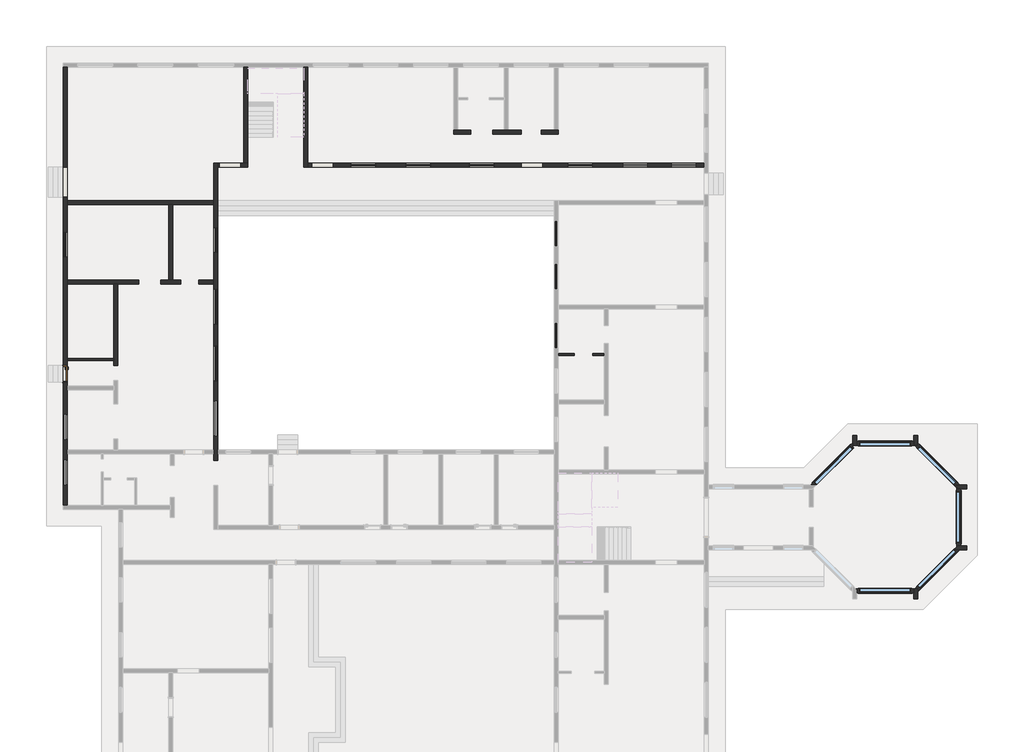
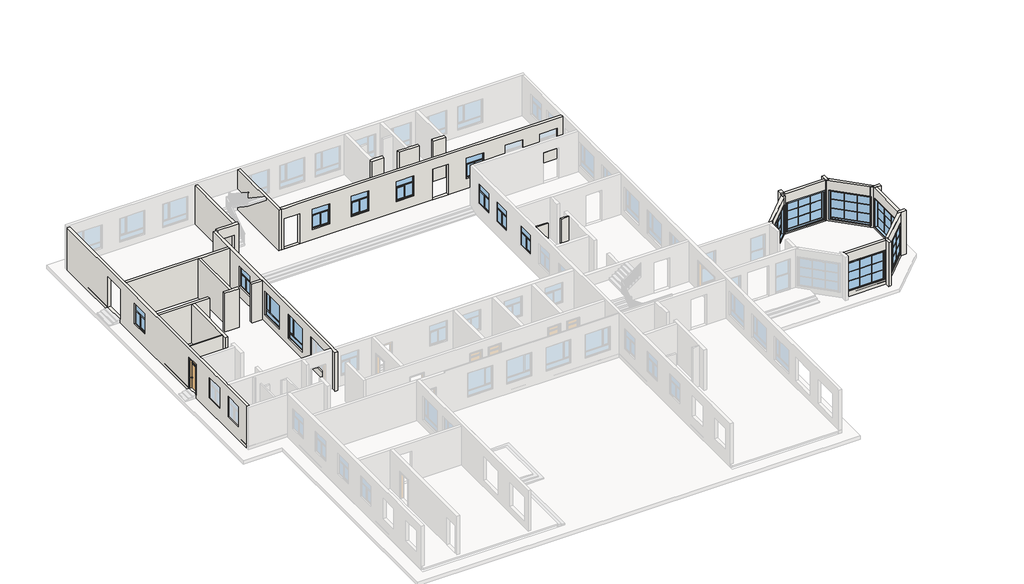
# One storey, part 3 of 5: 29 walls, 17 windows, 1 door.
"""IFC4 building model written with IfcOpenShell, lengths in millimetres."""

from ifc_helpers import new_model, si_unit, frame, origin, origin_with_axes, place, context, project, spatial, polyline, outline, extrude, faceted_brep, transform, mapped, element, save
from components import m1_645588ba, c1_07d47191, c2_05897f81, c3_245fb3e4, c3_0cb914d8

model = new_model("IFC4")

# Units and contexts
model_context = context("Model", 3, world=origin())
ifc_project = project(units=[si_unit("LENGTHUNIT", "METRE", prefix="MILLI")], contexts=[model_context])

# Site, building, storey
site = spatial("IfcSite", under=ifc_project)
building = spatial("IfcBuilding", under=site)
storey = spatial("IfcBuildingStorey", under=building, Name="一层", Elevation=0.0)

# Door
placement = place(None, origin())
m1_shape = m1_645588ba(model_context)
element("IfcDoor", 1, ObjectType="单嵌板木门 13 : M1", at=placement, inside=storey, context=model_context, shape_type="MappedRepresentation", body=[
    mapped(m1_shape, transform((-32270.2831392, 76.2161615, 0.0), x_axis=(0.0, -1.0, 0.0), y_axis=(1.0, 0.0, 0.0), z_axis=(0.0, 0.0, 1.0))),
])

# Walls
element("IfcWall", 2, ObjectType="墙", at=placement, inside=storey, context=model_context, shape_type="Brep", body=[
    faceted_brep([(-32150.2831392, -7793.7838385, -300.0), (-32150.2831392, -4733.7838385, -300.0), (-32150.2831392, -4493.7838385, -300.0), (-32150.2831392, -878.7838385, -300.0), (-32150.2831392, -638.7838385, -300.0), (-32150.2831392, 5456.2161615, -300.0), (-32150.2831392, 5696.2161615, -300.0), (-32150.2831392, 10226.2161615, -300.0), (-32150.2831392, 10466.2161615, -300.0), (-32150.2831392, 18456.2161615, -300.0), (-32150.2831392, 18456.2161615, 3450.0), (-32150.2831392, 10466.2161615, 3450.0), (-32150.2831392, 10226.2161615, 3450.0), (-32150.2831392, 5696.2161615, 3450.0), (-32150.2831392, 5456.2161615, 3450.0), (-32150.2831392, 1001.2161615, 3450.0), (-32150.2831392, 881.2161615, 3450.0), (-32150.2831392, -638.7838385, 3450.0), (-32150.2831392, -878.7838385, 3450.0), (-32150.2831392, -7793.7838385, 3450.0), (-32150.2831392, -6593.7838385, 900.0), (-32150.2831392, -6593.7838385, 2700.0), (-32150.2831392, -5093.7838385, 2700.0), (-32150.2831392, -5093.7838385, 900.0), (-32150.2831392, -3858.7838385, 900.0), (-32150.2831392, -3858.7838385, 2700.0), (-32150.2831392, -2358.7838385, 2700.0), (-32150.2831392, -2358.7838385, 900.0), (-32150.2831392, 7076.2161615, 900.0), (-32150.2831392, 7076.2161615, 2700.0), (-32150.2831392, 8576.2161615, 2700.0), (-32150.2831392, 8576.2161615, 900.0), (-32150.2831392, 10676.2161615, 0.0), (-32150.2831392, 10676.2161615, 2700.0), (-32150.2831392, 12476.2161615, 2700.0), (-32150.2831392, 12476.2161615, 0.0), (-32150.2831392, -423.7838385, 0.0), (-32150.2831392, -423.7838385, 2700.0), (-32150.2831392, 576.2161615, 2700.0), (-32150.2831392, 576.2161615, 0.0), (-32390.2831392, 18456.2161615, -300.0), (-32390.2831392, -7793.7838385, -300.0), (-32390.2831392, -7793.7838385, 3450.0), (-32390.2831392, 18456.2161615, 3450.0), (-32390.2831392, -6593.7838385, 2700.0), (-32390.2831392, -6593.7838385, 900.0), (-32390.2831392, -5093.7838385, 900.0), (-32390.2831392, -5093.7838385, 2700.0), (-32390.2831392, -3858.7838385, 2700.0), (-32390.2831392, -3858.7838385, 900.0), (-32390.2831392, -2358.7838385, 900.0), (-32390.2831392, -2358.7838385, 2700.0), (-32390.2831392, 7076.2161615, 2700.0), (-32390.2831392, 7076.2161615, 900.0), (-32390.2831392, 8576.2161615, 900.0), (-32390.2831392, 8576.2161615, 2700.0), (-32390.2831392, 10676.2161615, 2700.0), (-32390.2831392, 10676.2161615, 0.0), (-32390.2831392, 12476.2161615, 0.0), (-32390.2831392, 12476.2161615, 2700.0), (-32390.2831392, -423.7838385, 2700.0), (-32390.2831392, -423.7838385, 0.0), (-32390.2831392, 576.2161615, 0.0), (-32390.2831392, 576.2161615, 2700.0)], [[[0, 1, 2, 3, 4, 5, 6, 7, 8, 9, 10, 11, 12, 13, 14, 15, 16, 17, 18, 19], [20, 21, 22, 23], [24, 25, 26, 27], [28, 29, 30, 31], [32, 33, 34, 35], [36, 37, 38, 39]], [[40, 41, 42, 43], [44, 45, 46, 47], [48, 49, 50, 51], [52, 53, 54, 55], [56, 57, 58, 59], [60, 61, 62, 63]], [[9, 8, 7, 6, 5, 4, 3, 2, 1, 0, 41, 40]], [[41, 0, 19, 42]], [[21, 20, 45, 44]], [[22, 21, 44, 47]], [[23, 22, 47, 46]], [[20, 23, 46, 45]], [[25, 24, 49, 48]], [[26, 25, 48, 51]], [[27, 26, 51, 50]], [[24, 27, 50, 49]], [[29, 28, 53, 52]], [[30, 29, 52, 55]], [[31, 30, 55, 54]], [[28, 31, 54, 53]], [[33, 32, 57, 56]], [[34, 33, 56, 59]], [[35, 34, 59, 58]], [[32, 35, 58, 57]], [[37, 36, 61, 60]], [[38, 37, 60, 63]], [[39, 38, 63, 62]], [[36, 39, 62, 61]], [[9, 40, 43, 10]], [[19, 18, 17, 16, 15, 14, 13, 12, 11, 10, 43, 42]]]),
])
element("IfcWall", 3, ObjectType="墙", at=placement, inside=storey, context=model_context, shape_type="Brep", body=[
    faceted_brep([(12714.4224883, -6566.7838385, -300.0), (14887.7168608, -4393.4894659, -300.0), (14887.7168608, -4393.4894659, 200.0), (12714.4224883, -6566.7838385, 200.0), (12714.4224883, -6566.7838385, 2700.0), (14887.7168608, -4393.4894659, 2700.0), (14887.7168608, -4393.4894659, 3450.0), (12714.4224883, -6566.7838385, 3450.0), (14887.7168608, -4054.078211, -300.0), (12375.0112333, -6566.7838385, -300.0), (12375.0112333, -6566.7838385, 3450.0), (14887.7168608, -4054.078211, 3450.0), (14720.6925793, -4221.1024925, 200.0), (14720.6925793, -4221.1024925, 2700.0), (12542.8036933, -6398.9913785, 2700.0), (12542.8036933, -6398.9913785, 200.0), (14887.7168608, -4223.7838385, -300.0), (12710.5961532, -6566.7838385, 200.0), (12710.5961532, -6566.7838385, 2700.0), (14887.7168608, -4388.1267739, 2700.0), (14887.7168608, -4388.1267739, 200.0), (14887.7168608, -4223.7838385, 3450.0)], [[[0, 1, 2, 3]], [[4, 5, 6, 7]], [[8, 9, 10, 11], [12, 13, 14, 15]], [[1, 0, 9, 8, 16]], [[9, 0, 3, 17, 18, 4, 7, 10]], [[19, 13, 12, 20]], [[20, 12, 15, 17, 3, 2]], [[15, 14, 18, 17]], [[13, 19, 5, 4, 18, 14]], [[1, 16, 8, 11, 21, 6, 5, 19, 20, 2]], [[7, 6, 21, 11, 10]]]),
])
element("IfcWall", 4, ObjectType="墙", at=placement, inside=storey, context=model_context, shape_type="Brep", body=[
    faceted_brep([(15057.4224883, -4223.7838385, 3600.0), (15057.4224883, -4223.7838385, -300.0), (18541.7168608, -4223.7838385, -300.0), (18541.7168608, -4223.7838385, 3600.0), (18374.7168608, -4223.7838385, 2700.0), (18374.7168608, -4223.7838385, 200.0), (15294.7168608, -4223.7838385, 200.0), (15294.7168608, -4223.7838385, 2700.0), (15127.7168608, -3983.7838385, -300.0), (15127.7168608, -3983.7838385, 3600.0), (18541.7168608, -3983.7838385, 3600.0), (18541.7168608, -3983.7838385, -300.0), (18374.7168608, -3983.7838385, 2700.0), (15294.7168608, -3983.7838385, 2700.0), (15294.7168608, -3983.7838385, 200.0), (18374.7168608, -3983.7838385, 200.0), (15127.7168608, -4153.4894659, -300.0), (18541.7168608, -4153.4894659, 3600.0), (15127.7168608, -4153.4894659, 3600.0)], [[[0, 1, 2, 3], [4, 5, 6, 7]], [[8, 9, 10, 11], [12, 13, 14, 15]], [[2, 1, 16, 8, 11]], [[0, 3, 17, 10, 9, 18]], [[5, 4, 12, 15]], [[6, 5, 15, 14]], [[7, 6, 14, 13]], [[4, 7, 13, 12]], [[2, 11, 10, 17, 3]], [[0, 18, 16, 1]], [[16, 18, 9, 8]]]),
])
element("IfcWall", 5, ObjectType="墙", at=placement, inside=storey, context=model_context, shape_type="Brep", body=[
    faceted_brep([(18612.0112333, -4223.7838385, -300.0), (20955.0112333, -6566.7838385, -300.0), (20955.0112333, -6566.7838385, 200.0), (18779.0355148, -4390.8081199, 200.0), (18779.0355148, -4390.8081199, 2700.0), (20955.0112333, -6566.7838385, 2700.0), (20955.0112333, -6566.7838385, 3600.0), (18612.0112333, -4223.7838385, 3600.0), (21294.4224883, -6566.7838385, -300.0), (18781.7168608, -4054.078211, -300.0), (18781.7168608, -4054.078211, 3600.0), (21294.4224883, -6566.7838385, 3600.0), (18948.7411423, -4221.1024925, 2700.0), (18948.7411423, -4221.1024925, 200.0), (21126.6300284, -6398.9913785, 200.0), (21126.6300284, -6398.9913785, 2700.0), (18781.7168608, -4223.7838385, -300.0), (18781.7168608, -4223.7838385, 3600.0), (20958.8375684, -6566.7838385, 200.0), (20958.8375684, -6566.7838385, 2700.0)], [[[0, 1, 2, 3, 4, 5, 6, 7]], [[8, 9, 10, 11], [12, 13, 14, 15]], [[1, 0, 16, 9, 8]], [[7, 6, 11, 10, 17]], [[12, 4, 3, 13]], [[13, 3, 2, 18, 14]], [[14, 18, 19, 15]], [[4, 12, 15, 19, 5]], [[17, 10, 9, 16]], [[7, 17, 16, 0]], [[1, 8, 11, 6, 5, 19, 18, 2]]]),
])
element("IfcWall", 6, ObjectType="墙", at=placement, inside=storey, context=model_context, shape_type="Brep", body=[
    faceted_brep([(21195.0112333, -6806.7838385, -300.0), (21364.7168608, -6806.7838385, -300.0), (21724.7168608, -6806.7838385, -300.0), (21724.7168608, -6806.7838385, 3600.0), (21364.7168608, -6806.7838385, 3600.0), (21195.0112333, -6806.7838385, 3600.0), (21724.7168608, -6566.7838385, -300.0), (21294.4224883, -6566.7838385, -300.0), (20955.0112333, -6566.7838385, -300.0), (20955.0112333, -6566.7838385, 200.0), (20958.8375684, -6566.7838385, 200.0), (20958.8375684, -6566.7838385, 2700.0), (20955.0112333, -6566.7838385, 2700.0), (20955.0112333, -6566.7838385, 3600.0), (21294.4224883, -6566.7838385, 3600.0), (21724.7168608, -6566.7838385, 3600.0), (21124.7168608, -6736.4894659, -300.0), (21124.7168608, -6736.4894659, 3600.0), (20956.9244009, -6568.697006, 200.0), (20956.9244009, -6568.697006, 2700.0)], [[[0, 1, 2, 3, 4, 5]], [[6, 7, 8, 9, 10, 11, 12, 13, 14, 15]], [[2, 1, 0, 16, 8, 7, 6]], [[3, 2, 6, 15]], [[5, 4, 3, 15, 14, 13, 17]], [[18, 10, 9]], [[10, 18, 19, 11]], [[11, 19, 12]], [[8, 16, 0, 5, 17, 13, 12, 19, 18, 9]]]),
])
element("IfcWall", 7, ObjectType="墙", at=placement, inside=storey, context=model_context, shape_type="Brep", body=[
    faceted_brep([(15127.7168608, -4223.7838385, -300.0), (15127.7168608, -4153.4894659, -300.0), (15127.7168608, -3983.7838385, -300.0), (15127.7168608, -3623.7838385, -300.0), (15127.7168608, -3623.7838385, 3600.0), (15127.7168608, -3983.7838385, 3600.0), (15127.7168608, -3983.7838385, 3450.0), (15127.7168608, -4223.7838385, 3450.0), (14887.7168608, -3623.7838385, -300.0), (14887.7168608, -4054.078211, -300.0), (14887.7168608, -4223.7838385, -300.0), (14887.7168608, -4223.7838385, 3450.0), (14887.7168608, -4054.078211, 3450.0), (14887.7168608, -3983.7838385, 3450.0), (14887.7168608, -3983.7838385, 3600.0), (14887.7168608, -3623.7838385, 3600.0)], [[[0, 1, 2, 3, 4, 5, 6, 7]], [[8, 9, 10, 11, 12, 13, 14, 15]], [[3, 2, 1, 0, 10, 9, 8]], [[4, 3, 8, 15]], [[5, 4, 15, 14]], [[13, 12, 11, 7, 6]], [[0, 7, 11, 10]], [[6, 5, 14, 13]]]),
])
element("IfcWall", 8, ObjectType="墙", at=placement, inside=storey, context=model_context, shape_type="Brep", body=[
    faceted_brep([(18781.7168608, -4223.7838385, 3600.0), (18781.7168608, -4223.7838385, -300.0), (18781.7168608, -4054.078211, -300.0), (18781.7168608, -3623.7838385, -300.0), (18781.7168608, -3623.7838385, 3600.0), (18781.7168608, -4054.078211, 3600.0), (18541.7168608, -4223.7838385, -300.0), (18541.7168608, -4223.7838385, 3600.0), (18541.7168608, -3983.7838385, 3600.0), (18541.7168608, -3623.7838385, 3600.0), (18541.7168608, -3623.7838385, -300.0), (18541.7168608, -3983.7838385, -300.0), (18612.0112333, -4223.7838385, -300.0), (18612.0112333, -4223.7838385, 3600.0)], [[[0, 1, 2, 3, 4, 5]], [[6, 7, 8, 9, 10, 11]], [[3, 2, 1, 12, 6, 11, 10]], [[4, 3, 10, 9]], [[0, 5, 4, 9, 8, 7, 13]], [[0, 13, 7, 6, 12, 1]]]),
])
element("IfcWall", 9, ObjectType="墙", at=placement, inside=storey, context=model_context, shape_type="Brep", body=[
    faceted_brep([(15127.7168608, -13043.7838385, 3600.0), (15127.7168608, -13043.7838385, -300.0), (18541.7168608, -13043.7838385, -300.0), (18541.7168608, -13043.7838385, 3600.0), (18374.7168608, -13043.7838385, 2700.0), (18374.7168608, -13043.7838385, 200.0), (15294.7168608, -13043.7838385, 200.0), (15294.7168608, -13043.7838385, 2700.0), (15057.4224883, -12803.7838385, -300.0), (15057.4224883, -12803.7838385, 3600.0), (15127.7168608, -12803.7838385, 3600.0), (18541.7168608, -12803.7838385, 3600.0), (18541.7168608, -12803.7838385, -300.0), (18374.7168608, -12803.7838385, 2700.0), (15294.7168608, -12803.7838385, 2700.0), (15294.7168608, -12803.7838385, 200.0), (18374.7168608, -12803.7838385, 200.0), (15127.7168608, -12874.078211, -300.0), (15127.7168608, -12874.078211, 3600.0)], [[[0, 1, 2, 3], [4, 5, 6, 7]], [[8, 9, 10, 11, 12], [13, 14, 15, 16]], [[2, 1, 17, 8, 12]], [[0, 3, 11, 10, 9, 18]], [[3, 2, 12, 11]], [[5, 4, 13, 16]], [[6, 5, 16, 15]], [[7, 6, 15, 14]], [[4, 7, 14, 13]], [[18, 9, 8, 17]], [[0, 18, 17, 1]]]),
])
element("IfcWall", 10, ObjectType="墙", at=placement, inside=storey, context=model_context, shape_type="Brep", body=[
    faceted_brep([(18781.7168608, -12973.4894659, -300.0), (21294.4224883, -10460.7838385, -300.0), (21294.4224883, -10460.7838385, 3600.0), (18781.7168608, -12973.4894659, 3600.0), (18948.7411423, -12806.4651844, 200.0), (18948.7411423, -12806.4651844, 2700.0), (21126.6300284, -10628.5762984, 2700.0), (21126.6300284, -10628.5762984, 200.0), (20955.0112333, -10460.7838385, -300.0), (18612.0112333, -12803.7838385, -300.0), (18612.0112333, -12803.7838385, 3600.0), (20955.0112333, -10460.7838385, 3600.0), (20955.0112333, -10460.7838385, 2700.0), (18779.0355148, -12636.759557, 2700.0), (18779.0355148, -12636.759557, 200.0), (20955.0112333, -10460.7838385, 200.0), (18781.7168608, -12803.7838385, -300.0), (18781.7168608, -12803.7838385, 3600.0), (20958.8375684, -10460.7838385, 200.0), (20958.8375684, -10460.7838385, 2700.0)], [[[0, 1, 2, 3], [4, 5, 6, 7]], [[8, 9, 10, 11, 12, 13, 14, 15]], [[1, 0, 16, 9, 8]], [[3, 2, 11, 10, 17]], [[0, 3, 17, 16]], [[10, 9, 16, 17]], [[13, 5, 4, 14]], [[14, 4, 7, 18, 15]], [[18, 7, 6, 19]], [[5, 13, 12, 19, 6]], [[1, 8, 15, 18, 19, 12, 11, 2]]]),
])
element("IfcWall", 11, ObjectType="墙", at=placement, inside=storey, context=model_context, shape_type="Brep", body=[
    faceted_brep([(20955.0112333, -10460.7838385, -300.0), (21294.4224883, -10460.7838385, -300.0), (21724.7168608, -10460.7838385, -300.0), (21724.7168608, -10460.7838385, 3600.0), (21294.4224883, -10460.7838385, 3600.0), (20955.0112333, -10460.7838385, 3600.0), (20955.0112333, -10460.7838385, 2700.0), (20958.8375684, -10460.7838385, 2700.0), (20958.8375684, -10460.7838385, 200.0), (20955.0112333, -10460.7838385, 200.0), (21724.7168608, -10220.7838385, -300.0), (21364.7168608, -10220.7838385, -300.0), (21195.0112333, -10220.7838385, -300.0), (21195.0112333, -10220.7838385, 3600.0), (21364.7168608, -10220.7838385, 3600.0), (21724.7168608, -10220.7838385, 3600.0), (21124.7168608, -10291.078211, -300.0), (21124.7168608, -10291.078211, 3600.0), (20956.9244009, -10458.8706709, 200.0), (20956.9244009, -10458.8706709, 2700.0)], [[[0, 1, 2, 3, 4, 5, 6, 7, 8, 9]], [[10, 11, 12, 13, 14, 15]], [[2, 1, 0, 16, 12, 11, 10]], [[3, 2, 10, 15]], [[5, 4, 3, 15, 14, 13, 17]], [[8, 18, 9]], [[18, 8, 7, 19]], [[19, 7, 6]], [[12, 16, 0, 9, 18, 19, 6, 5, 17, 13]]]),
])
element("IfcWall", 12, ObjectType="墙", at=placement, inside=storey, context=model_context, shape_type="Brep", body=[
    faceted_brep([(18541.7168608, -12803.7838385, -300.0), (18541.7168608, -13043.7838385, -300.0), (18541.7168608, -13403.7838385, -300.0), (18541.7168608, -13403.7838385, 3600.0), (18541.7168608, -13043.7838385, 3600.0), (18541.7168608, -12803.7838385, 3600.0), (18781.7168608, -12803.7838385, -300.0), (18781.7168608, -12803.7838385, 3600.0), (18781.7168608, -12973.4894659, 3600.0), (18781.7168608, -13403.7838385, 3600.0), (18781.7168608, -13403.7838385, -300.0), (18781.7168608, -12973.4894659, -300.0), (18612.0112333, -12803.7838385, -300.0), (18612.0112333, -12803.7838385, 3600.0)], [[[0, 1, 2, 3, 4, 5]], [[6, 7, 8, 9, 10, 11]], [[2, 1, 0, 12, 6, 11, 10]], [[3, 2, 10, 9]], [[5, 4, 3, 9, 8, 7, 13]], [[0, 5, 13, 7, 6, 12]]]),
])
element("IfcWall", 13, ObjectType="墙", at=placement, inside=storey, context=model_context, shape_type="Brep", body=[
    faceted_brep([(21124.7168608, -6736.4894659, -300.0), (21124.7168608, -10291.078211, -300.0), (21124.7168608, -10291.078211, 3600.0), (21124.7168608, -6736.4894659, 3600.0), (21124.7168608, -10053.7838385, 2700.0), (21124.7168608, -10053.7838385, 200.0), (21124.7168608, -6973.7838385, 200.0), (21124.7168608, -6973.7838385, 2700.0), (21364.7168608, -6806.7838385, -300.0), (21364.7168608, -6806.7838385, 3600.0), (21364.7168608, -10220.7838385, 3600.0), (21364.7168608, -10220.7838385, -300.0), (21364.7168608, -10053.7838385, 2700.0), (21364.7168608, -6973.7838385, 2700.0), (21364.7168608, -6973.7838385, 200.0), (21364.7168608, -10053.7838385, 200.0), (21195.0112333, -6806.7838385, -300.0), (21195.0112333, -10220.7838385, -300.0), (21195.0112333, -10220.7838385, 3600.0), (21195.0112333, -6806.7838385, 3600.0)], [[[0, 1, 2, 3], [4, 5, 6, 7]], [[8, 9, 10, 11], [12, 13, 14, 15]], [[1, 0, 16, 8, 11, 17]], [[3, 2, 18, 10, 9, 19]], [[5, 4, 12, 15]], [[6, 5, 15, 14]], [[7, 6, 14, 13]], [[4, 7, 13, 12]], [[19, 9, 8, 16]], [[17, 11, 10, 18]], [[0, 3, 19, 16]], [[2, 1, 17, 18]]]),
])
element("IfcWall", 14, ObjectType="墙", at=placement, inside=storey, context=model_context, shape_type="Brep", body=[
    faceted_brep([(-32150.2831392, 10226.2161615, -300.0), (-26070.2831392, 10226.2161615, -300.0), (-25830.2831392, 10226.2161615, -300.0), (-23380.2831392, 10226.2161615, -300.0), (-23380.2831392, 10226.2161615, 3450.0), (-25830.2831392, 10226.2161615, 3450.0), (-26070.2831392, 10226.2161615, 3450.0), (-32150.2831392, 10226.2161615, 3450.0), (-23380.2831392, 10466.2161615, -300.0), (-32150.2831392, 10466.2161615, -300.0), (-32150.2831392, 10466.2161615, 3450.0), (-23380.2831392, 10466.2161615, 3450.0)], [[[0, 1, 2, 3, 4, 5, 6, 7]], [[8, 9, 10, 11]], [[3, 2, 1, 0, 9, 8]], [[9, 0, 7, 10]], [[3, 8, 11, 4]], [[7, 6, 5, 4, 11, 10]]]),
])
element("IfcWall", 15, ObjectType="墙", at=placement, inside=storey, context=model_context, shape_type="Brep", body=[
    faceted_brep([(-23140.2831392, 12456.2161615, -300.0), (-21350.2831392, 12456.2161615, -300.0), (-21350.2831392, 12456.2161615, 3600.0), (-21750.2831392, 12456.2161615, 3600.0), (-23050.2831392, 12456.2161615, 3600.0), (-23140.2831392, 12456.2161615, 3600.0), (-21750.2831392, 12456.2161615, 0.0), (-23050.2831392, 12456.2161615, 0.0), (-23050.2831392, 12456.2161615, 2700.0), (-21750.2831392, 12456.2161615, 2700.0), (-23140.2831392, 12696.2161615, -300.0), (-23140.2831392, 12696.2161615, 3600.0), (-23050.2831392, 12696.2161615, 3600.0), (-21750.2831392, 12696.2161615, 3600.0), (-21590.2831392, 12696.2161615, 3600.0), (-21350.2831392, 12696.2161615, 3600.0), (-21350.2831392, 12696.2161615, -300.0), (-21590.2831392, 12696.2161615, -300.0), (-21750.2831392, 12696.2161615, 0.0), (-21750.2831392, 12696.2161615, 2700.0), (-23050.2831392, 12696.2161615, 2700.0), (-23050.2831392, 12696.2161615, 0.0)], [[[0, 1, 2, 3, 4, 5], [6, 7, 8, 9]], [[10, 11, 12, 13, 14, 15, 16, 17], [18, 19, 20, 21]], [[1, 0, 10, 17, 16]], [[5, 4, 3, 2, 15, 14, 13, 12, 11]], [[0, 5, 11, 10]], [[2, 1, 16, 15]], [[19, 18, 6, 9]], [[20, 19, 9, 8]], [[21, 20, 8, 7]], [[18, 21, 7, 6]]]),
])
element("IfcWall", 16, ObjectType="墙", at=placement, inside=storey, context=model_context, shape_type="Brep", body=[
    faceted_brep([(-21590.2831392, 18456.2161615, -300.0), (-21590.2831392, 12696.2161615, -300.0), (-21590.2831392, 12696.2161615, 3450.0), (-21590.2831392, 18456.2161615, 3450.0), (-21350.2831392, 12696.2161615, -300.0), (-21350.2831392, 18456.2161615, -300.0), (-21350.2831392, 18456.2161615, 3450.0), (-21350.2831392, 14256.2161615, 3450.0), (-21350.2831392, 12696.2161615, 3450.0)], [[[0, 1, 2, 3]], [[4, 5, 6, 7, 8]], [[1, 0, 5, 4]], [[5, 0, 3, 6]], [[1, 4, 8, 2]], [[3, 2, 8, 7, 6]]]),
])
element("IfcWall", 17, ObjectType="墙", at=placement, inside=storey, context=model_context, shape_type="Brep", body=[
    faceted_brep([(-17990.2831392, 18456.2161615, -300.0), (-17990.2831392, 12456.2161615, -300.0), (-17990.2831392, 12456.2161615, 3600.0), (-17990.2831392, 18456.2161615, 3600.0), (-17750.2831392, 18456.2161615, -300.0), (-17750.2831392, 18456.2161615, 3600.0), (-17750.2831392, 12696.2161615, 3600.0), (-17750.2831392, 12456.2161615, 3600.0), (-17750.2831392, 12456.2161615, -300.0), (-17750.2831392, 12696.2161615, -300.0)], [[[0, 1, 2, 3]], [[4, 5, 6, 7, 8, 9]], [[1, 0, 4, 9, 8]], [[3, 2, 7, 6, 5]], [[0, 3, 5, 4]], [[2, 1, 8, 7]]]),
])
element("IfcWall", 18, ObjectType="墙", at=placement, inside=storey, context=model_context, shape_type="Brep", body=[
    faceted_brep([(-2750.2831392, 14696.2161615, -300.0), (-2990.2831392, 14696.2161615, -300.0), (-3770.2831392, 14696.2161615, -300.0), (-3770.2831392, 14696.2161615, 3600.0), (-2990.2831392, 14696.2161615, 3600.0), (-2750.2831392, 14696.2161615, 3600.0), (-2750.2831392, 14456.2161615, -300.0), (-2750.2831392, 14456.2161615, 3600.0), (-3770.2831392, 14456.2161615, 3600.0), (-3770.2831392, 14456.2161615, -300.0)], [[[0, 1, 2, 3, 4, 5]], [[6, 7, 8, 9]], [[2, 1, 0, 6, 9]], [[3, 2, 9, 8]], [[5, 4, 3, 8, 7]], [[0, 5, 7, 6]]]),
])
element("IfcWall", 19, ObjectType="墙", at=placement, inside=storey, context=model_context, shape_type="Brep", body=[
    faceted_brep([(-32150.2831392, 5456.2161615, -300.0), (-29365.2831392, 5456.2161615, -300.0), (-29125.2831392, 5456.2161615, -300.0), (-27860.2831392, 5456.2161615, -300.0), (-27860.2831392, 5456.2161615, 3450.0), (-32150.2831392, 5456.2161615, 3450.0), (-27860.2831392, 5696.2161615, -300.0), (-32150.2831392, 5696.2161615, -300.0), (-32150.2831392, 5696.2161615, 3450.0), (-27860.2831392, 5696.2161615, 3450.0)], [[[0, 1, 2, 3, 4, 5]], [[6, 7, 8, 9]], [[3, 2, 1, 0, 7, 6]], [[3, 6, 9, 4]], [[7, 0, 5, 8]], [[5, 4, 9, 8]]]),
])
element("IfcWall", 20, ObjectType="墙", at=placement, inside=storey, context=model_context, shape_type="SweptSolid", body=[
    extrude(outline(polyline([(-26070.2831392, 5696.2161615), (-26070.2831392, 10226.2161615), (-25830.2831392, 10226.2161615), (-25830.2831392, 5696.2161615), (-26070.2831392, 5696.2161615)])), frame((0.0, 0.0, -300.0), z_axis=(0.0, 0.0, 1.0), x_axis=(1.0, 0.0, 0.0)), (0.0, 0.0, 1.0), 3750.0),
])
element("IfcWall", 21, ObjectType="隔墙", at=placement, inside=storey, context=model_context, shape_type="SweptSolid", body=[
    extrude(outline(polyline([(-29365.2831392, 881.2161615), (-32150.2831392, 881.2161615), (-32150.2831392, 1001.2161615), (-29365.2831392, 1001.2161615), (-29365.2831392, 881.2161615)])), origin_with_axes(), (0.0, 0.0, 1.0), 3450.0),
])
element("IfcWall", 22, ObjectType="隔墙", at=placement, inside=storey, context=model_context, shape_type="SweptSolid", body=[
    extrude(outline(polyline([(-1770.2831392, 1176.2161615), (-2750.2831392, 1176.2161615), (-2750.2831392, 1296.2161615), (-1770.2831392, 1296.2161615), (-1770.2831392, 1176.2161615)])), origin_with_axes(), (0.0, 0.0, 1.0), 3600.0),
])
element("IfcWall", 23, ObjectType="墙", at=placement, inside=storey, context=model_context, shape_type="Brep", body=[
    faceted_brep([(-17750.2831392, 12456.2161615, -300.0), (6009.7168608, 12456.2161615, -300.0), (6009.7168608, 12456.2161615, 3600.0), (-3670.2831392, 12456.2161615, 3600.0), (-4970.2831392, 12456.2161615, 3600.0), (-16220.2831392, 12456.2161615, 3600.0), (-17520.2831392, 12456.2161615, 3600.0), (-17750.2831392, 12456.2161615, 3600.0), (4029.7168608, 12456.2161615, 900.0), (4029.7168608, 12456.2161615, 2700.0), (5529.7168608, 12456.2161615, 2700.0), (5529.7168608, 12456.2161615, 900.0), (1129.7168608, 12456.2161615, 900.0), (1129.7168608, 12456.2161615, 2700.0), (2629.7168608, 12456.2161615, 2700.0), (2629.7168608, 12456.2161615, 900.0), (-2170.2831392, 12456.2161615, 900.0), (-2170.2831392, 12456.2161615, 2700.0), (-670.2831392, 12456.2161615, 2700.0), (-670.2831392, 12456.2161615, 900.0), (-8070.2831392, 12456.2161615, 900.0), (-8070.2831392, 12456.2161615, 2700.0), (-6570.2831392, 12456.2161615, 2700.0), (-6570.2831392, 12456.2161615, 900.0), (-11870.2831392, 12456.2161615, 900.0), (-11870.2831392, 12456.2161615, 2700.0), (-10370.2831392, 12456.2161615, 2700.0), (-10370.2831392, 12456.2161615, 900.0), (-15170.2831392, 12456.2161615, 900.0), (-15170.2831392, 12456.2161615, 2700.0), (-13670.2831392, 12456.2161615, 2700.0), (-13670.2831392, 12456.2161615, 900.0), (-16220.2831392, 12456.2161615, 0.0), (-17520.2831392, 12456.2161615, 0.0), (-17520.2831392, 12456.2161615, 2700.0), (-16220.2831392, 12456.2161615, 2700.0), (-3670.2831392, 12456.2161615, 0.0), (-4970.2831392, 12456.2161615, 0.0), (-4970.2831392, 12456.2161615, 2700.0), (-3670.2831392, 12456.2161615, 2700.0), (-17750.2831392, 12696.2161615, -300.0), (-17750.2831392, 12696.2161615, 3600.0), (-17520.2831392, 12696.2161615, 3600.0), (-16220.2831392, 12696.2161615, 3600.0), (-4970.2831392, 12696.2161615, 3600.0), (-3670.2831392, 12696.2161615, 3600.0), (6009.7168608, 12696.2161615, 3600.0), (6009.7168608, 12696.2161615, -300.0), (4029.7168608, 12696.2161615, 900.0), (5529.7168608, 12696.2161615, 900.0), (5529.7168608, 12696.2161615, 2700.0), (4029.7168608, 12696.2161615, 2700.0), (1129.7168608, 12696.2161615, 900.0), (2629.7168608, 12696.2161615, 900.0), (2629.7168608, 12696.2161615, 2700.0), (1129.7168608, 12696.2161615, 2700.0), (-2170.2831392, 12696.2161615, 900.0), (-670.2831392, 12696.2161615, 900.0), (-670.2831392, 12696.2161615, 2700.0), (-2170.2831392, 12696.2161615, 2700.0), (-8070.2831392, 12696.2161615, 900.0), (-6570.2831392, 12696.2161615, 900.0), (-6570.2831392, 12696.2161615, 2700.0), (-8070.2831392, 12696.2161615, 2700.0), (-11870.2831392, 12696.2161615, 900.0), (-10370.2831392, 12696.2161615, 900.0), (-10370.2831392, 12696.2161615, 2700.0), (-11870.2831392, 12696.2161615, 2700.0), (-15170.2831392, 12696.2161615, 900.0), (-13670.2831392, 12696.2161615, 900.0), (-13670.2831392, 12696.2161615, 2700.0), (-15170.2831392, 12696.2161615, 2700.0), (-16220.2831392, 12696.2161615, 0.0), (-16220.2831392, 12696.2161615, 2700.0), (-17520.2831392, 12696.2161615, 2700.0), (-17520.2831392, 12696.2161615, 0.0), (-3670.2831392, 12696.2161615, 0.0), (-3670.2831392, 12696.2161615, 2700.0), (-4970.2831392, 12696.2161615, 2700.0), (-4970.2831392, 12696.2161615, 0.0)], [[[0, 1, 2, 3, 4, 5, 6, 7], [8, 9, 10, 11], [12, 13, 14, 15], [16, 17, 18, 19], [20, 21, 22, 23], [24, 25, 26, 27], [28, 29, 30, 31], [32, 33, 34, 35], [36, 37, 38, 39]], [[40, 41, 42, 43, 44, 45, 46, 47], [48, 49, 50, 51], [52, 53, 54, 55], [56, 57, 58, 59], [60, 61, 62, 63], [64, 65, 66, 67], [68, 69, 70, 71], [72, 73, 74, 75], [76, 77, 78, 79]], [[1, 0, 40, 47]], [[7, 6, 5, 4, 3, 2, 46, 45, 44, 43, 42, 41]], [[2, 1, 47, 46]], [[8, 11, 49, 48]], [[11, 10, 50, 49]], [[10, 9, 51, 50]], [[9, 8, 48, 51]], [[12, 15, 53, 52]], [[15, 14, 54, 53]], [[14, 13, 55, 54]], [[13, 12, 52, 55]], [[16, 19, 57, 56]], [[19, 18, 58, 57]], [[18, 17, 59, 58]], [[17, 16, 56, 59]], [[20, 23, 61, 60]], [[23, 22, 62, 61]], [[22, 21, 63, 62]], [[21, 20, 60, 63]], [[24, 27, 65, 64]], [[27, 26, 66, 65]], [[26, 25, 67, 66]], [[25, 24, 64, 67]], [[28, 31, 69, 68]], [[31, 30, 70, 69]], [[30, 29, 71, 70]], [[29, 28, 68, 71]], [[0, 7, 41, 40]], [[73, 72, 32, 35]], [[74, 73, 35, 34]], [[75, 74, 34, 33]], [[72, 75, 33, 32]], [[77, 76, 36, 39]], [[78, 77, 39, 38]], [[79, 78, 38, 37]], [[76, 79, 37, 36]]]),
])
element("IfcWall", 24, ObjectType="墙", at=placement, inside=storey, context=model_context, shape_type="Brep", body=[
    faceted_brep([(-7970.2831392, 14696.2161615, -300.0), (-8750.2831392, 14696.2161615, -300.0), (-8990.2831392, 14696.2161615, -300.0), (-8990.2831392, 14696.2161615, 3600.0), (-8750.2831392, 14696.2161615, 3600.0), (-7970.2831392, 14696.2161615, 3600.0), (-7970.2831392, 14456.2161615, -300.0), (-7970.2831392, 14456.2161615, 3600.0), (-8990.2831392, 14456.2161615, 3600.0), (-8990.2831392, 14456.2161615, -300.0)], [[[0, 1, 2, 3, 4, 5]], [[6, 7, 8, 9]], [[2, 1, 0, 6, 9]], [[5, 4, 3, 8, 7]], [[0, 5, 7, 6]], [[3, 2, 9, 8]]]),
])
element("IfcWall", 25, ObjectType="墙", at=placement, inside=storey, context=model_context, shape_type="Brep", body=[
    faceted_brep([(-4970.2831392, 14696.2161615, -300.0), (-5750.2831392, 14696.2161615, -300.0), (-5990.2831392, 14696.2161615, -300.0), (-6670.2831392, 14696.2161615, -300.0), (-6670.2831392, 14696.2161615, 3600.0), (-5990.2831392, 14696.2161615, 3600.0), (-5750.2831392, 14696.2161615, 3600.0), (-4970.2831392, 14696.2161615, 3600.0), (-4970.2831392, 14456.2161615, -300.0), (-4970.2831392, 14456.2161615, 3600.0), (-6670.2831392, 14456.2161615, 3600.0), (-6670.2831392, 14456.2161615, -300.0)], [[[0, 1, 2, 3, 4, 5, 6, 7]], [[8, 9, 10, 11]], [[3, 2, 1, 0, 8, 11]], [[4, 3, 11, 10]], [[7, 6, 5, 4, 10, 9]], [[0, 7, 9, 8]]]),
])
element("IfcWall", 26, ObjectType="墙", at=placement, inside=storey, context=model_context, shape_type="Brep", body=[
    faceted_brep([(-26560.2831392, 5456.2161615, -300.0), (-25340.2831392, 5456.2161615, -300.0), (-25340.2831392, 5456.2161615, 3450.0), (-26560.2831392, 5456.2161615, 3450.0), (-25340.2831392, 5696.2161615, -300.0), (-25830.2831392, 5696.2161615, -300.0), (-26070.2831392, 5696.2161615, -300.0), (-26560.2831392, 5696.2161615, -300.0), (-26560.2831392, 5696.2161615, 3450.0), (-26070.2831392, 5696.2161615, 3450.0), (-25830.2831392, 5696.2161615, 3450.0), (-25340.2831392, 5696.2161615, 3450.0)], [[[0, 1, 2, 3]], [[4, 5, 6, 7, 8, 9, 10, 11]], [[1, 0, 7, 6, 5, 4]], [[1, 4, 11, 2]], [[7, 0, 3, 8]], [[3, 2, 11, 10, 9, 8]]]),
])
element("IfcWall", 27, ObjectType="墙", at=placement, inside=storey, context=model_context, shape_type="SweptSolid", body=[
    extrude(outline(polyline([(-29125.2831392, 5456.2161615), (-29125.2831392, 576.2161615), (-29365.2831392, 576.2161615), (-29365.2831392, 5456.2161615), (-29125.2831392, 5456.2161615)])), frame((0.0, 0.0, -300.0), z_axis=(0.0, 0.0, 1.0), x_axis=(1.0, 0.0, 0.0)), (0.0, 0.0, 1.0), 3750.0),
])
element("IfcWall", 28, ObjectType="墙", at=placement, inside=storey, context=model_context, shape_type="SweptSolid", body=[
    extrude(outline(polyline([(-23380.2831392, 5456.2161615), (-24280.2831392, 5456.2161615), (-24280.2831392, 5696.2161615), (-23380.2831392, 5696.2161615), (-23380.2831392, 5456.2161615)])), frame((0.0, 0.0, -300.0), z_axis=(0.0, 0.0, 1.0), x_axis=(1.0, 0.0, 0.0)), (0.0, 0.0, 1.0), 3750.0),
])
element("IfcWall", 29, ObjectType="隔墙", at=placement, inside=storey, context=model_context, shape_type="SweptSolid", body=[
    extrude(outline(polyline([(9.7168608, 1176.2161615), (-670.2831392, 1176.2161615), (-670.2831392, 1296.2161615), (9.7168608, 1296.2161615), (9.7168608, 1176.2161615)])), origin_with_axes(), (0.0, 0.0, 1.0), 3600.0),
])
element("IfcWall", 30, ObjectType="墙", at=placement, inside=storey, context=model_context, shape_type="Brep", body=[
    faceted_brep([(-23140.2831392, -5113.7838385, -300.0), (-23140.2831392, -4733.7838385, -300.0), (-23140.2831392, -4493.7838385, -300.0), (-23140.2831392, 12456.2161615, -300.0), (-23140.2831392, 12696.2161615, -300.0), (-23140.2831392, 12696.2161615, 3450.0), (-23140.2831392, 10466.2161615, 3450.0), (-23140.2831392, -4493.7838385, 3450.0), (-23140.2831392, -4733.7838385, 3450.0), (-23140.2831392, -5113.7838385, 3450.0), (-23140.2831392, 8846.2161615, 900.0), (-23140.2831392, 7346.2161615, 900.0), (-23140.2831392, 7346.2161615, 2700.0), (-23140.2831392, 8846.2161615, 2700.0), (-23140.2831392, 5146.2161615, 600.0), (-23140.2831392, 3046.2161615, 600.0), (-23140.2831392, 3046.2161615, 2700.0), (-23140.2831392, 5146.2161615, 2700.0), (-23140.2831392, 1746.2161615, 600.0), (-23140.2831392, -353.7838385, 600.0), (-23140.2831392, -353.7838385, 2700.0), (-23140.2831392, 1746.2161615, 2700.0), (-23140.2831392, -1553.7838385, 600.0), (-23140.2831392, -3653.7838385, 600.0), (-23140.2831392, -3653.7838385, 2700.0), (-23140.2831392, -1553.7838385, 2700.0), (-23380.2831392, 12696.2161615, -300.0), (-23380.2831392, 10466.2161615, -300.0), (-23380.2831392, 10226.2161615, -300.0), (-23380.2831392, 5696.2161615, -300.0), (-23380.2831392, 5456.2161615, -300.0), (-23380.2831392, -4493.7838385, -300.0), (-23380.2831392, -4733.7838385, -300.0), (-23380.2831392, -5113.7838385, -300.0), (-23380.2831392, -5113.7838385, 3450.0), (-23380.2831392, -4733.7838385, 3450.0), (-23380.2831392, -4493.7838385, 3450.0), (-23380.2831392, 5456.2161615, 3450.0), (-23380.2831392, 5696.2161615, 3450.0), (-23380.2831392, 10226.2161615, 3450.0), (-23380.2831392, 10466.2161615, 3450.0), (-23380.2831392, 12696.2161615, 3450.0), (-23380.2831392, 7346.2161615, 900.0), (-23380.2831392, 8846.2161615, 900.0), (-23380.2831392, 8846.2161615, 2700.0), (-23380.2831392, 7346.2161615, 2700.0), (-23380.2831392, 3046.2161615, 600.0), (-23380.2831392, 5146.2161615, 600.0), (-23380.2831392, 5146.2161615, 2700.0), (-23380.2831392, 3046.2161615, 2700.0), (-23380.2831392, -353.7838385, 600.0), (-23380.2831392, 1746.2161615, 600.0), (-23380.2831392, 1746.2161615, 2700.0), (-23380.2831392, -353.7838385, 2700.0), (-23380.2831392, -3653.7838385, 600.0), (-23380.2831392, -1553.7838385, 600.0), (-23380.2831392, -1553.7838385, 2700.0), (-23380.2831392, -3653.7838385, 2700.0)], [[[0, 1, 2, 3, 4, 5, 6, 7, 8, 9], [10, 11, 12, 13], [14, 15, 16, 17], [18, 19, 20, 21], [22, 23, 24, 25]], [[26, 27, 28, 29, 30, 31, 32, 33, 34, 35, 36, 37, 38, 39, 40, 41], [42, 43, 44, 45], [46, 47, 48, 49], [50, 51, 52, 53], [54, 55, 56, 57]], [[4, 3, 2, 1, 0, 33, 32, 31, 30, 29, 28, 27, 26]], [[33, 0, 9, 34]], [[4, 26, 41, 5]], [[43, 42, 11, 10]], [[42, 45, 12, 11]], [[45, 44, 13, 12]], [[44, 43, 10, 13]], [[47, 46, 15, 14]], [[46, 49, 16, 15]], [[49, 48, 17, 16]], [[48, 47, 14, 17]], [[51, 50, 19, 18]], [[50, 53, 20, 19]], [[53, 52, 21, 20]], [[52, 51, 18, 21]], [[55, 54, 23, 22]], [[54, 57, 24, 23]], [[57, 56, 25, 24]], [[56, 55, 22, 25]], [[6, 5, 41, 40, 39, 38, 37, 36, 35, 34, 9, 8, 7]]]),
])

# Windows
c1_shape = c1_07d47191(model_context)
element("IfcWindow", 31, ObjectType="组合窗 - 双层单列(固定+推拉) : C1", at=placement, inside=storey, context=model_context, shape_type="MappedRepresentation", body=[
    mapped(c1_shape, transform((-1420.2831392, 12576.2161615, 0.0), x_axis=(1.0, 0.0, 0.0), y_axis=(0.0, 1.0, 0.0), z_axis=(0.0, 0.0, 1.0))),
])
element("IfcWindow", 32, ObjectType="组合窗 - 双层单列(固定+推拉) : C1", at=placement, inside=storey, context=model_context, shape_type="MappedRepresentation", body=[
    mapped(c1_shape, transform((-7320.2831392, 12576.2161615, 0.0), x_axis=(1.0, 0.0, 0.0), y_axis=(0.0, 1.0, 0.0), z_axis=(0.0, 0.0, 1.0))),
])
element("IfcWindow", 33, ObjectType="组合窗 - 双层单列(固定+推拉) : C1", at=placement, inside=storey, context=model_context, shape_type="MappedRepresentation", body=[
    mapped(c1_shape, transform((-11120.2831392, 12576.2161615, 0.0), x_axis=(1.0, 0.0, 0.0), y_axis=(0.0, 1.0, 0.0), z_axis=(0.0, 0.0, 1.0))),
])
element("IfcWindow", 34, ObjectType="组合窗 - 双层单列(固定+推拉) : C1", at=placement, inside=storey, context=model_context, shape_type="MappedRepresentation", body=[
    mapped(c1_shape, transform((-14420.2831392, 12576.2161615, 0.0), x_axis=(1.0, 0.0, 0.0), y_axis=(0.0, 1.0, 0.0), z_axis=(0.0, 0.0, 1.0))),
])
element("IfcWindow", 35, ObjectType="组合窗 - 双层单列(固定+推拉) : C1", at=placement, inside=storey, context=model_context, shape_type="MappedRepresentation", body=[
    mapped(c1_shape, transform((-32270.2831392, 7826.2161615, 0.0), x_axis=(0.0, 1.0, 0.0), y_axis=(-1.0, 0.0, 0.0), z_axis=(0.0, 0.0, 1.0))),
])
element("IfcWindow", 36, ObjectType="组合窗 - 双层单列(固定+推拉) : C1", at=placement, inside=storey, context=model_context, shape_type="MappedRepresentation", body=[
    mapped(c1_shape, transform((-23260.2831392, 8096.2161615, 0.0), x_axis=(0.0, -1.0, 0.0), y_axis=(1.0, 0.0, 0.0), z_axis=(0.0, 0.0, 1.0))),
])
element("IfcWindow", 37, ObjectType="组合窗 - 双层单列(固定+推拉) : C1", at=placement, inside=storey, context=model_context, shape_type="MappedRepresentation", body=[
    mapped(c1_shape, transform((-2870.2831392, 8496.2161615, 0.0), x_axis=(0.0, 1.0, 0.0), y_axis=(-1.0, 0.0, 0.0), z_axis=(0.0, 0.0, 1.0))),
])
element("IfcWindow", 38, ObjectType="组合窗 - 双层单列(固定+推拉) : C1", at=placement, inside=storey, context=model_context, shape_type="MappedRepresentation", body=[
    mapped(c1_shape, transform((-2870.2831392, 5916.2161615, 0.0), x_axis=(0.0, 1.0, 0.0), y_axis=(-1.0, 0.0, 0.0), z_axis=(0.0, 0.0, 1.0))),
])
element("IfcWindow", 39, ObjectType="组合窗 - 双层单列(固定+推拉) : C1", at=placement, inside=storey, context=model_context, shape_type="MappedRepresentation", body=[
    mapped(c1_shape, transform((-2870.2831392, 2386.2161615, 0.0), x_axis=(0.0, 1.0, 0.0), y_axis=(-1.0, 0.0, 0.0), z_axis=(0.0, 0.0, 1.0))),
])
c2_shape = c2_05897f81(model_context)
element("IfcWindow", 40, ObjectType="组合窗 - 双层双列(平开+固定) - 下部单扇 : C2", at=placement, inside=storey, context=model_context, shape_type="MappedRepresentation", body=[
    mapped(c2_shape, transform((-23260.2831392, 4096.2161615, 0.0), x_axis=(0.0, -1.0, 0.0), y_axis=(1.0, 0.0, 0.0), z_axis=(0.0, 0.0, 1.0))),
])
element("IfcWindow", 41, ObjectType="组合窗 - 双层双列(平开+固定) - 下部单扇 : C2", at=placement, inside=storey, context=model_context, shape_type="MappedRepresentation", body=[
    mapped(c2_shape, transform((-23260.2831392, 696.2161615, 0.0), x_axis=(0.0, -1.0, 0.0), y_axis=(1.0, 0.0, 0.0), z_axis=(0.0, 0.0, 1.0))),
])
c3_shape = c3_245fb3e4(model_context)
element("IfcWindow", 42, ObjectType="单扇平开窗2 - 带贴面 : C3", at=placement, inside=storey, context=model_context, shape_type="MappedRepresentation", body=[
    mapped(c3_shape, transform((16834.7168608, -4103.7838385, -700.0), x_axis=(1.0, 0.0, 0.0), y_axis=(0.0, 1.0, 0.0), z_axis=(0.0, 0.0, 1.0))),
])
element("IfcWindow", 43, ObjectType="单扇平开窗2 - 带贴面 : C3", at=placement, inside=storey, context=model_context, shape_type="MappedRepresentation", body=[
    mapped(c3_shape, transform((13716.6009501, -5394.8997492, -700.0), x_axis=(0.7071067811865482, 0.7071067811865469, 0.0), y_axis=(-0.7071067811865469, 0.7071067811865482, 0.0), z_axis=(0.0, 0.0, 1.0))),
])
element("IfcWindow", 44, ObjectType="单扇平开窗2 - 带贴面 : C3", at=placement, inside=storey, context=model_context, shape_type="MappedRepresentation", body=[
    mapped(c3_shape, transform((19952.8327716, -11632.6679277, -700.0), x_axis=(-0.7071067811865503, -0.7071067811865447, 0.0), y_axis=(0.7071067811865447, -0.7071067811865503, 0.0), z_axis=(0.0, 0.0, 1.0))),
])
element("IfcWindow", 45, ObjectType="单扇平开窗2 - 带贴面 : C3", at=placement, inside=storey, context=model_context, shape_type="MappedRepresentation", body=[
    mapped(c3_shape, transform((21244.7168608, -8513.7838385, -700.0), x_axis=(0.0, -1.0, 0.0), y_axis=(1.0, 0.0, 0.0), z_axis=(0.0, 0.0, 1.0))),
])
c3_2_shape = c3_0cb914d8(model_context)
element("IfcWindow", 46, ObjectType="单扇平开窗2 - 带贴面 : C3", at=placement, inside=storey, context=model_context, shape_type="MappedRepresentation", body=[
    mapped(c3_2_shape, transform((19952.8327716, -5394.8997492, -700.0), x_axis=(-0.7071067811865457, 0.7071067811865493, 0.0), y_axis=(-0.7071067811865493, -0.7071067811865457, 0.0), z_axis=(0.0, 0.0, 1.0))),
])
element("IfcWindow", 47, ObjectType="单扇平开窗2 - 带贴面 : C3", at=placement, inside=storey, context=model_context, shape_type="MappedRepresentation", body=[
    mapped(c3_2_shape, transform((16834.7168608, -12923.7838385, -700.0), x_axis=(1.0, 0.0, 0.0), y_axis=(0.0, 1.0, 0.0), z_axis=(0.0, 0.0, 1.0))),
])

save(model, "model.ifc")
